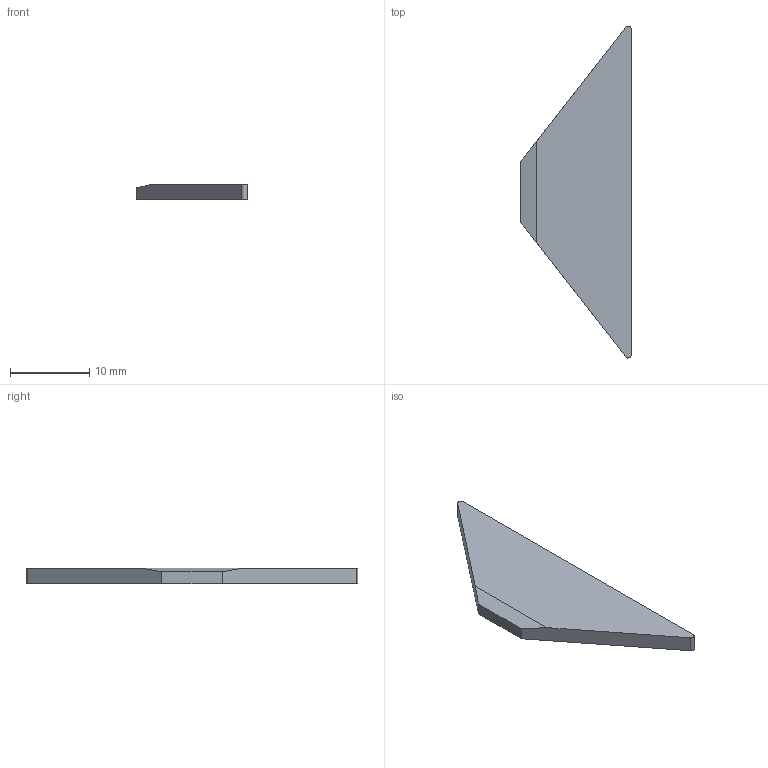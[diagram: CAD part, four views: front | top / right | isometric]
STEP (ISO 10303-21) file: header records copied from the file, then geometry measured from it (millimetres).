
FILE_DESCRIPTION(('Open CASCADE Model'),'2;1');
FILE_NAME('Open CASCADE Shape Model','2026-10-15T18:27:22',('Author'),( 'Open CASCADE'),'Open CASCADE STEP processor 7.9','Open CASCADE 7.9' ,'Unknown');
FILE_SCHEMA(('AUTOMOTIVE_DESIGN { 1 0 10303 214 1 1 1 1 }'));
Length unit declared in the file: millimetre
Products named in the file (1): Open CASCADE STEP translator 7.9 20
Bounding box: 14 x 41.99 x 2 mm (x, y, z)
Volume: 711.3 mm3; surface area: 899.2 mm2
Topology: 1 solids, 1 shells, 9 faces, 21 edges, 14 vertices
Faces by surface type: plane 7, cylinder 2
Entity records: 530 total; most frequent: CARTESIAN_POINT 99, DIRECTION 75, LINE 43, VECTOR 43, ORIENTED_EDGE 42, PCURVE 42, DEFINITIONAL_REPRESENTATION 42, EDGE_CURVE 21
